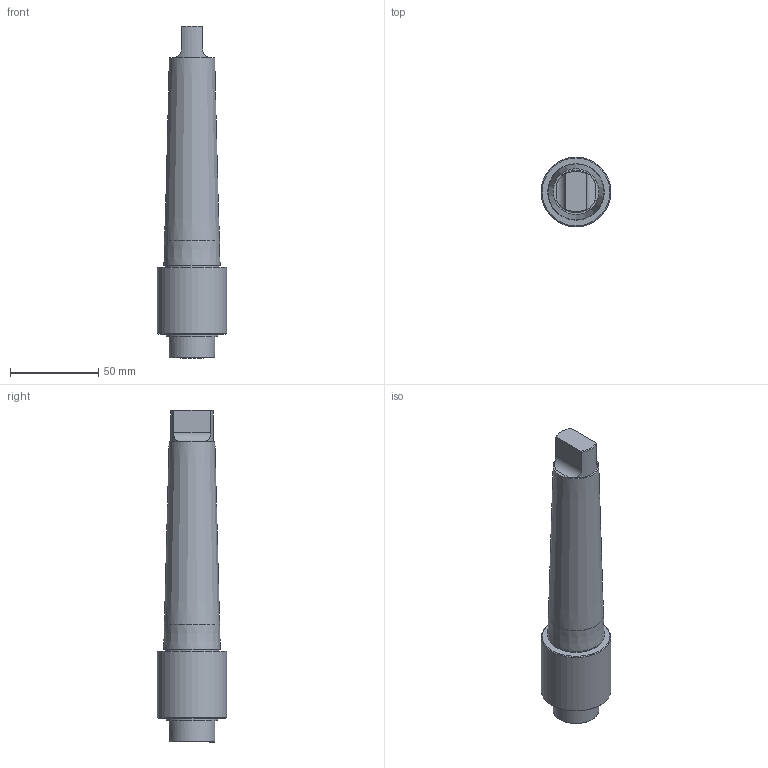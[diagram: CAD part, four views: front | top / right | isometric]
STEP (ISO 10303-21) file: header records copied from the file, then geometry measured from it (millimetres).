
FILE_DESCRIPTION(/* description */ (''),/* implementation_level */ '2;1');
FILE_NAME(/* name */ 'KC-CX16E4.stp',/* time_stamp */ '2026-01-13T13:56:20+03:00',/* author */ ('User'),/* organization */ (''),/* preprocessor_version */ 'ST-DEVELOPER v19.2',/* originating_system */ 'Autodesk Inventor 2024',/* authorisation */ '');
FILE_SCHEMA (('AUTOMOTIVE_DESIGN { 1 0 10303 214 3 1 1 }'));
Length unit declared in the file: millimetre
Products named in the file (1): KC-CX16E4
Bounding box: 39.5 x 39.5 x 188 mm (x, y, z)
Volume: 134729.5 mm3; surface area: 21046.7 mm2
Topology: 2 solids, 2 shells, 43 faces, 92 edges, 61 vertices
Faces by surface type: plane 21, cylinder 12, cone 9, bspline 1
Full cylindrical faces by diameter (mm): 8 x1, 8.2 x1, 16 x1, 26 x1, 29 x1, 29.268 x1, 31 x1, 39.5 x1
Entity records: 1496 total; most frequent: CARTESIAN_POINT 512, DIRECTION 197, ORIENTED_EDGE 184, EDGE_CURVE 92, AXIS2_PLACEMENT_3D 77, VERTEX_POINT 61, EDGE_LOOP 53, LINE 43
